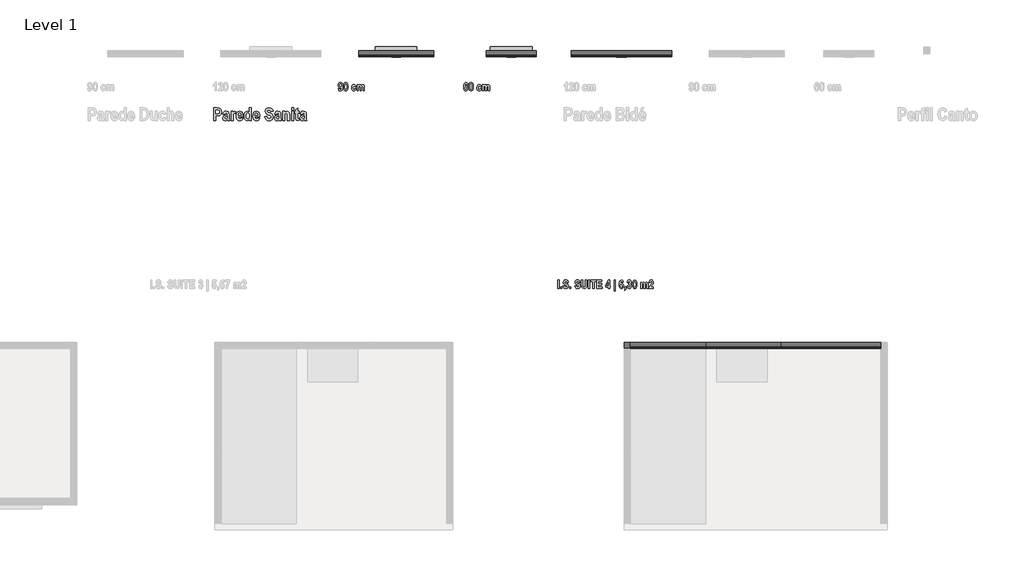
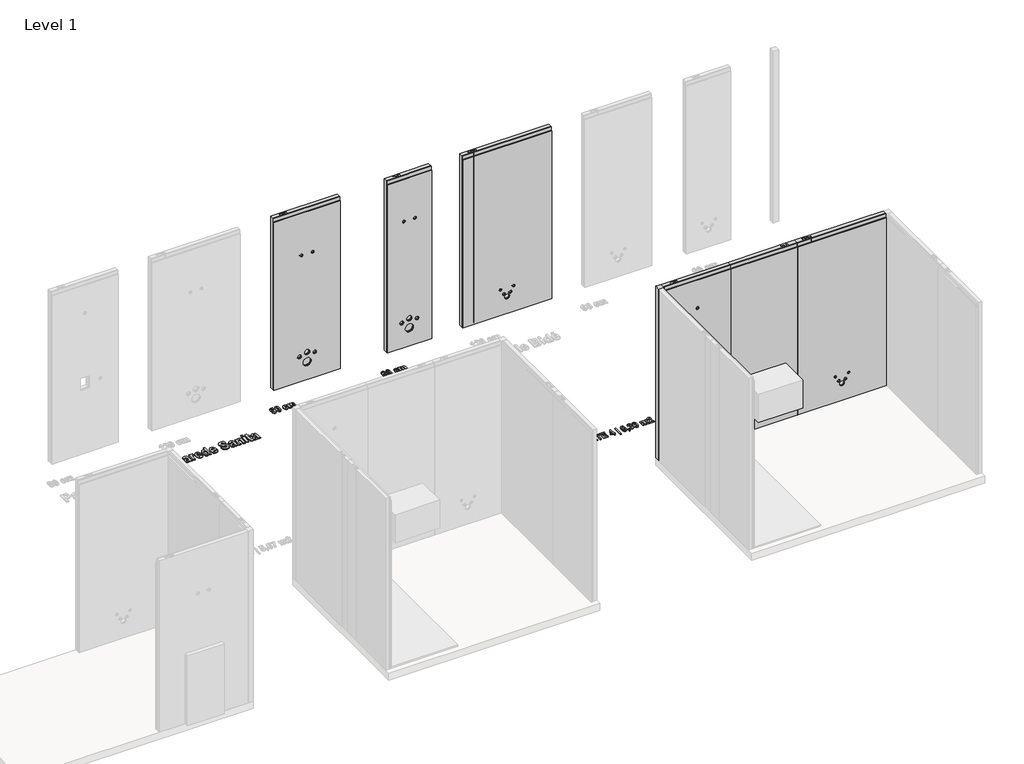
# One storey, part 9 of 10: 11 proxies.
"""IFC4 building model written with IfcOpenShell, lengths in millimetres."""

from ifc_helpers import new_model, si_unit, origin, origin_with_axes, place, context, project, spatial, polyline, outline, extrude, transform, mapped, element, save
from components import generic_models_9f05e25b, generic_models_2c183811, generic_models_8d7f3108, generic_models_38e5dddb, generic_models_87e237a0, generic_models_d659e27f

model = new_model("IFC4")

# Units and contexts
model_context = context("Model", 3, world=origin())
ifc_project = project(units=[si_unit("LENGTHUNIT", "METRE", prefix="MILLI")], contexts=[model_context])

# Site, building, storey
site = spatial("IfcSite", under=ifc_project)
building = spatial("IfcBuilding", under=site)
storey = spatial("IfcBuildingStorey", under=building, Name="Level 1", Elevation=0.0)

# Proxies
placement = place(None, origin())
generic_models_shape = generic_models_9f05e25b(model_context)
element("IfcBuildingElementProxy", 1, Name="ParedeSanita_Blufab : Parede Sanita -Largura 60 cm", ObjectType="ParedeSanita_Blufab : Parede Sanita -Largura 60 cm", at=placement, inside=storey, context=model_context, shape_type="MappedRepresentation", body=[
    mapped(generic_models_shape, transform((4079.1272248, 7918.7563997, 0.0), x_axis=(1.0, 0.0, 0.0), y_axis=(0.0, 1.0, 0.0), z_axis=(0.0, 0.0, 1.0))),
])
generic_models_2_shape = generic_models_2c183811(model_context)
element("IfcBuildingElementProxy", 2, Name="ParedeSanita_Blufab : Parede Sanita - Largura 90 cm", ObjectType="ParedeSanita_Blufab : Parede Sanita - Largura 90 cm", at=placement, inside=storey, context=model_context, shape_type="MappedRepresentation", body=[
    mapped(generic_models_2_shape, transform((2549.1272248, 7918.7563997, 0.0), x_axis=(1.0, 0.0, 0.0), y_axis=(0.0, 1.0, 0.0), z_axis=(0.0, 0.0, 1.0))),
])
generic_models_3_shape = generic_models_8d7f3108(model_context)
element("IfcBuildingElementProxy", 3, Name="ParedeDuche_Blufab : Parede Duche- Largura 90 cm", ObjectType="ParedeDuche_Blufab : Parede Duche- Largura 90 cm", at=placement, inside=storey, context=model_context, shape_type="MappedRepresentation", body=[
    mapped(generic_models_3_shape, transform((5803.6595429, 4427.3727477, 0.0), x_axis=(1.0, 0.0, 0.0), y_axis=(0.0, 1.0, 0.0), z_axis=(0.0, 0.0, 1.0))),
])
generic_models_4_shape = generic_models_38e5dddb(model_context)
element("IfcBuildingElementProxy", 4, Name="ParedeBidé_Blufab : Parede Bidé- Largura 120 cm", ObjectType="ParedeBidé_Blufab : Parede Bidé- Largura 120 cm", at=placement, inside=storey, context=model_context, shape_type="MappedRepresentation", body=[
    mapped(generic_models_4_shape, transform((5099.1272248, 7918.7563997, 0.0), x_axis=(1.0, 0.0, 0.0), y_axis=(0.0, 1.0, 0.0), z_axis=(0.0, 0.0, 1.0))),
])
element("IfcBuildingElementProxy", 5, Name="ParedeBidé_Blufab : Parede Bidé- Largura 120 cm", ObjectType="ParedeBidé_Blufab : Parede Bidé- Largura 120 cm", at=placement, inside=storey, context=model_context, shape_type="MappedRepresentation", body=[
    mapped(generic_models_4_shape, transform((7603.6595429, 4427.3727477, 0.0), x_axis=(1.0, 0.0, 0.0), y_axis=(0.0, 1.0, 0.0), z_axis=(0.0, 0.0, 1.0))),
])
generic_models_5_shape = generic_models_87e237a0(model_context)
element("IfcBuildingElementProxy", 6, Name="PerfilCanto_Blufab : Parede Geral - Largura 60 cm", ObjectType="PerfilCanto_Blufab : Parede Geral - Largura 60 cm", at=placement, inside=storey, context=model_context, shape_type="MappedRepresentation", body=[
    mapped(generic_models_5_shape, transform((5730.6595429, 4427.3727477, 0.0), x_axis=(1.0, 0.0, 0.0), y_axis=(0.0, 1.0, 0.0), z_axis=(0.0, 0.0, 1.0))),
])
generic_models_6_shape = generic_models_d659e27f(model_context)
element("IfcBuildingElementProxy", 7, Name="ParedeLavatório_Blufab : Parede Lavatório - Largura 90 cm", ObjectType="ParedeLavatório_Blufab : Parede Lavatório - Largura 90 cm", at=placement, inside=storey, context=model_context, shape_type="MappedRepresentation", body=[
    mapped(generic_models_6_shape, transform((7603.6595429, 4427.3727477, 0.0), x_axis=(-1.0, 0.0, 0.0), y_axis=(0.0, -1.0, 0.0), z_axis=(0.0, 0.0, 1.0))),
])
element("IfcBuildingElementProxy", 8, Name="24\" Arial", ObjectType="24\" Arial", at=placement, inside=storey, context=model_context, shape_type="SweptSolid", body=[
    extrude(outline(polyline([(2306.7324692, 7537.2422205), (2322.9774053, 7538.8667141), (2325.8139234, 7530.3381226), (2332.0897991, 7527.4952588), (2340.9356745, 7532.9906161), (2345.3649578, 7555.39086), (2338.4481686, 7549.1086386), (2329.9068858, 7546.9891821), (2320.6993068, 7549.2228608), (2312.6212585, 7555.923897), (2306.9862963, 7566.3181178), (2305.1079756, 7579.6313506), (2307.0180247, 7593.7758672), (2312.7481721, 7604.5317917), (2321.2767635, 7611.328013), (2331.5821449, 7613.5934201), (2342.9980199, 7610.6648896), (2352.2182902, 7601.8792982), (2358.3101413, 7586.3101768), (2360.3407583, 7563.0310565), (2358.2276475, 7539.3140844), (2351.888315, 7523.3451853), (2342.1794274, 7514.2740384), (2329.9576513, 7511.2503227), (2321.4322327, 7512.8430879), (2314.5376533, 7517.6213836), (2309.5467775, 7525.7121233), (2306.7324692, 7537.2422205)]), holes=[polyline([(2344.0958222, 7579.2252272), (2340.3899462, 7592.6526822), (2331.9882683, 7597.348484), (2324.3861458, 7593.4776203), (2321.3529117, 7580.5958937), (2324.6653557, 7567.4222658), (2332.8258978, 7563.2341182), (2340.7833782, 7567.2318955), (2344.0958222, 7579.2252272)])]), origin_with_axes(), (0.0, 0.0, 1.0), 10.0),
    extrude(outline(polyline([(2396.8664818, 7613.5934201), (2407.7239371, 7610.7473834), (2416.284257, 7602.2092735), (2421.843071, 7586.564004), (2423.696009, 7562.3964887), (2421.843071, 7538.2670475), (2416.284257, 7522.6344693), (2407.7366285, 7514.0963594), (2396.9172472, 7511.2503227), (2386.0597919, 7514.0709767), (2377.499472, 7522.5329385), (2371.940658, 7538.1908994), (2370.0877199, 7562.5995504), (2371.940658, 7586.6147694), (2377.499472, 7602.2092735), (2386.0471005, 7610.7473834), (2396.8664818, 7613.5934201)]), holes=[polyline([(2396.8918645, 7597.348484), (2389.2009026, 7591.256633), (2386.332656, 7562.3964887), (2389.2009026, 7533.5617271), (2396.8918645, 7527.4952588), (2404.6209005, 7533.5871099), (2407.451073, 7562.3964887), (2404.6209005, 7591.256633), (2396.8918645, 7597.348484)])]), origin_with_axes(), (0.0, 0.0, 1.0), 10.0),
    extrude(outline(polyline([(2521.1656256, 7564.8586118), (2504.9206895, 7561.6096246), (2501.5130603, 7568.9198458), (2494.5899254, 7571.3565863), (2485.5917538, 7566.5719449), (2482.177779, 7550.4158483), (2485.4775316, 7532.6733322), (2494.3107156, 7527.4952588), (2501.1132826, 7530.3635053), (2504.9206895, 7540.4912077), (2521.1656256, 7537.2422205), (2517.7119902, 7525.8707652), (2512.0468861, 7517.7482972), (2504.170313, 7512.8748163), (2494.0822712, 7511.2503227), (2481.6161864, 7514.0360754), (2472.8496321, 7522.3933336), (2467.6620402, 7534.6722208), (2465.9328429, 7549.2228608), (2467.9190401, 7565.7596981), (2473.8776319, 7577.8037953), (2483.0598282, 7585.1520906), (2494.716839, 7587.6015223), (2504.1845908, 7586.2403744), (2511.7232565, 7582.1569305), (2521.1656256, 7564.8586118)])), origin_with_axes(), (0.0, 0.0, 1.0), 10.0),
    extrude(outline(polyline([(2532.5370808, 7585.9770287), (2547.1575233, 7585.9770287), (2547.1575233, 7576.0777708), (2555.7114975, 7584.7459672), (2565.7630517, 7587.6015223), (2575.7003837, 7584.7332758), (2582.5917902, 7576.0523881), (2591.0949989, 7584.7332758), (2600.7658124, 7587.6015223), (2611.2615641, 7584.6825104), (2617.9626002, 7576.3189066), (2620.2597357, 7559.6043903), (2620.2597357, 7512.8748163), (2604.0147996, 7512.8748163), (2604.0147996, 7553.6394528), (2602.1491703, 7567.8283892), (2595.8923316, 7571.3565863), (2587.64295, 7566.4196487), (2584.5208763, 7547.1160957), (2584.5208763, 7512.8748163), (2568.2759402, 7512.8748163), (2568.2759402, 7551.9641938), (2567.0321873, 7566.9146115), (2560.3565339, 7571.3565863), (2554.1377693, 7569.0721421), (2550.0384612, 7562.3964887), (2548.7820169, 7547.5222191), (2548.7820169, 7512.8748163), (2532.5370808, 7512.8748163), (2532.5370808, 7585.9770287)])), origin_with_axes(), (0.0, 0.0, 1.0), 10.0),
])
element("IfcBuildingElementProxy", 9, Name="24\" Arial", ObjectType="24\" Arial", at=placement, inside=storey, context=model_context, shape_type="SweptSolid", body=[
    extrude(outline(polyline([(3858.7162647, 7587.6015223), (3842.4713286, 7585.9770287), (3839.8124894, 7594.5056202), (3833.9173544, 7597.348484), (3825.8075777, 7591.8150526), (3821.7336524, 7569.3767347), (3828.3077749, 7575.7351042), (3836.3033294, 7577.8545607), (3845.3522665, 7575.6145363), (3853.1574506, 7568.8944631), (3858.5449314, 7558.4558226), (3860.3407583, 7545.060096), (3858.4878203, 7530.9504806), (3852.9290062, 7520.2484944), (3844.6352048, 7513.4998656), (3834.577305, 7511.2503227), (3823.5770719, 7514.182026), (3814.6391842, 7522.977136), (3808.7091479, 7538.5557759), (3806.7324692, 7561.838069), (3808.7821232, 7585.5360041), (3814.9310854, 7601.4985575), (3824.2973063, 7610.5697044), (3835.9987369, 7613.5934201), (3844.1656247, 7611.9816178), (3850.9491546, 7607.1462111), (3855.9368577, 7599.0364344), (3858.7162647, 7587.6015223)]), holes=[polyline([(3822.9774053, 7545.6692811), (3826.3913801, 7532.1656779), (3834.1965643, 7527.4952588), (3841.2783411, 7531.3661225), (3844.0958222, 7544.0701702), (3841.0372053, 7557.421477), (3833.4604656, 7561.6096246), (3826.0360222, 7557.6118474), (3822.9774053, 7545.6692811)])]), origin_with_axes(), (0.0, 0.0, 1.0), 10.0),
    extrude(outline(polyline([(3896.8664818, 7613.5934201), (3907.7239371, 7610.7473834), (3916.284257, 7602.2092735), (3921.843071, 7586.564004), (3923.696009, 7562.3964887), (3921.843071, 7538.2670475), (3916.284257, 7522.6344693), (3907.7366285, 7514.0963594), (3896.9172472, 7511.2503227), (3886.0597919, 7514.0709767), (3877.499472, 7522.5329385), (3871.940658, 7538.1908994), (3870.0877199, 7562.5995504), (3871.940658, 7586.6147694), (3877.499472, 7602.2092735), (3886.0471005, 7610.7473834), (3896.8664818, 7613.5934201)]), holes=[polyline([(3896.8918645, 7597.348484), (3889.2009026, 7591.256633), (3886.332656, 7562.3964887), (3889.2009026, 7533.5617271), (3896.8918645, 7527.4952588), (3904.6209005, 7533.5871099), (3907.451073, 7562.3964887), (3904.6209005, 7591.256633), (3896.8918645, 7597.348484)])]), origin_with_axes(), (0.0, 0.0, 1.0), 10.0),
    extrude(outline(polyline([(4021.1656256, 7564.8586118), (4004.9206895, 7561.6096246), (4001.5130603, 7568.9198458), (3994.5899254, 7571.3565863), (3985.5917538, 7566.5719449), (3982.177779, 7550.4158483), (3985.4775316, 7532.6733322), (3994.3107156, 7527.4952588), (4001.1132826, 7530.3635053), (4004.9206895, 7540.4912077), (4021.1656256, 7537.2422205), (4017.7119902, 7525.8707652), (4012.0468861, 7517.7482972), (4004.170313, 7512.8748163), (3994.0822712, 7511.2503227), (3981.6161864, 7514.0360754), (3972.8496321, 7522.3933336), (3967.6620402, 7534.6722208), (3965.9328429, 7549.2228608), (3967.9190401, 7565.7596981), (3973.8776319, 7577.8037953), (3983.0598282, 7585.1520906), (3994.716839, 7587.6015223), (4004.1845908, 7586.2403744), (4011.7232565, 7582.1569305), (4021.1656256, 7564.8586118)])), origin_with_axes(), (0.0, 0.0, 1.0), 10.0),
    extrude(outline(polyline([(4032.5370808, 7585.9770287), (4047.1575233, 7585.9770287), (4047.1575233, 7576.0777708), (4055.7114975, 7584.7459672), (4065.7630517, 7587.6015223), (4075.7003837, 7584.7332758), (4082.5917902, 7576.0523881), (4091.0949989, 7584.7332758), (4100.7658124, 7587.6015223), (4111.2615641, 7584.6825104), (4117.9626002, 7576.3189066), (4120.2597357, 7559.6043903), (4120.2597357, 7512.8748163), (4104.0147996, 7512.8748163), (4104.0147996, 7553.6394528), (4102.1491703, 7567.8283892), (4095.8923316, 7571.3565863), (4087.64295, 7566.4196487), (4084.5208763, 7547.1160957), (4084.5208763, 7512.8748163), (4068.2759402, 7512.8748163), (4068.2759402, 7551.9641938), (4067.0321873, 7566.9146115), (4060.3565339, 7571.3565863), (4054.1377693, 7569.0721421), (4050.0384612, 7562.3964887), (4048.7820169, 7547.5222191), (4048.7820169, 7512.8748163), (4032.5370808, 7512.8748163), (4032.5370808, 7585.9770287)])), origin_with_axes(), (0.0, 0.0, 1.0), 10.0),
])
element("IfcBuildingElementProxy", 10, Name="24\" Arial", ObjectType="24\" Arial", at=placement, inside=storey, context=model_context, shape_type="SweptSolid", body=[
    extrude(outline(polyline([(4934.9814564, 5144.3634386), (4934.9814564, 5245.0820423), (4951.2263925, 5245.0820423), (4951.2263925, 5144.3634386), (4934.9814564, 5144.3634386)])), origin_with_axes(), (0.0, 0.0, 1.0), 10.0),
    extrude(outline(polyline([(4967.4713286, 5144.3634386), (4967.4713286, 5163.8573619), (4983.7162647, 5163.8573619), (4983.7162647, 5144.3634386), (4967.4713286, 5144.3634386)])), origin_with_axes(), (0.0, 0.0, 1.0), 10.0),
    extrude(outline(polyline([(4996.7122136, 5176.8533108), (5012.9571496, 5178.4778044), (5018.8142106, 5165.0757321), (5030.9027275, 5160.6083747), (5042.7564543, 5164.3650161), (5047.0715154, 5173.655089), (5045.5485527, 5179.1885203), (5040.9035163, 5182.9451618), (5026.0292467, 5188.1486179), (5010.6346314, 5195.2557774), (5002.85483, 5205.2058008), (4999.9612008, 5218.4809595), (5003.7051509, 5233.3425377), (5014.0359149, 5243.3306352), (5030.3189251, 5246.7065359), (5043.2704542, 5244.812351), (5053.0364529, 5239.1297962), (5059.2869459, 5229.92539), (5061.6919579, 5217.465651), (5045.4470218, 5215.8411574), (5040.7004546, 5225.9561684), (5030.2681597, 5228.8371062), (5019.8612475, 5226.0957733), (5016.2061369, 5219.2932063), (5019.0743834, 5212.5667874), (5033.6440604, 5206.1449611), (5051.6657864, 5198.2509375), (5060.3212914, 5188.1105438), (5063.3164515, 5173.0205211), (5061.3143901, 5161.2239054), (5055.3082057, 5151.4705981), (5045.0377256, 5144.9218583), (5030.242777, 5142.738945), (5016.8486368, 5144.8710928), (5006.7954962, 5151.2675364), (5000.0833551, 5161.9282757), (4996.7122136, 5176.8533108)])), origin_with_axes(), (0.0, 0.0, 1.0), 10.0),
    extrude(outline(polyline([(5076.3124004, 5144.3634386), (5076.3124004, 5163.8573619), (5092.5573365, 5163.8573619), (5092.5573365, 5144.3634386), (5076.3124004, 5144.3634386)])), origin_with_axes(), (0.0, 0.0, 1.0), 10.0),
    extrude(outline(polyline([(5138.0431575, 5176.8533108), (5154.2880936, 5178.4778044), (5160.1451546, 5165.0757321), (5172.2336715, 5160.6083747), (5184.0873983, 5164.3650161), (5188.4024594, 5173.655089), (5186.8794967, 5179.1885203), (5182.2344602, 5182.9451618), (5167.3601906, 5188.1486179), (5151.9655754, 5195.2557774), (5144.185774, 5205.2058008), (5141.2921448, 5218.4809595), (5145.0360949, 5233.3425377), (5155.3668589, 5243.3306352), (5171.6498691, 5246.7065359), (5184.6013982, 5244.812351), (5194.3673969, 5239.1297962), (5200.6178899, 5229.92539), (5203.0229019, 5217.465651), (5186.7779658, 5215.8411574), (5182.0313985, 5225.9561684), (5171.5991036, 5228.8371062), (5161.1921915, 5226.0957733), (5157.5370808, 5219.2932063), (5160.4053274, 5212.5667874), (5174.9750044, 5206.1449611), (5192.9967304, 5198.2509375), (5201.6522354, 5188.1105438), (5204.6473955, 5173.0205211), (5202.645334, 5161.2239054), (5196.6391497, 5151.4705981), (5186.3686696, 5144.9218583), (5171.5737209, 5142.738945), (5158.1795808, 5144.8710928), (5148.1264401, 5151.2675364), (5141.4142991, 5161.9282757), (5138.0431575, 5176.8533108)])), origin_with_axes(), (0.0, 0.0, 1.0), 10.0),
    extrude(outline(polyline([(5217.6433444, 5245.0820423), (5233.8882805, 5245.0820423), (5233.8882805, 5190.9153336), (5234.4974656, 5174.4673358), (5239.7516871, 5164.2254112), (5250.6916362, 5160.6083747), (5260.0705485, 5163.1720286), (5265.0455602, 5170.2664968), (5266.3781526, 5189.7477288), (5266.3781526, 5245.0820423), (5282.6230887, 5245.0820423), (5282.6230887, 5192.2352346), (5280.4909409, 5162.9562756), (5277.0198549, 5154.7893878), (5270.8708928, 5148.3358331), (5262.1900051, 5144.138167), (5251.1231423, 5142.738945), (5231.235787, 5147.37129), (5220.8669489, 5160.4180043), (5217.6433444, 5191.3976051), (5217.6433444, 5245.0820423)])), origin_with_axes(), (0.0, 0.0, 1.0), 10.0),
    extrude(outline(polyline([(5300.4925184, 5144.3634386), (5300.4925184, 5245.0820423), (5316.7374545, 5245.0820423), (5316.7374545, 5144.3634386), (5300.4925184, 5144.3634386)])), origin_with_axes(), (0.0, 0.0, 1.0), 10.0),
    extrude(outline(polyline([(5352.4763139, 5144.3634386), (5352.4763139, 5228.8371062), (5328.1089098, 5228.8371062), (5328.1089098, 5245.0820423), (5393.0886541, 5245.0820423), (5393.0886541, 5228.8371062), (5368.72125, 5228.8371062), (5368.72125, 5144.3634386), (5352.4763139, 5144.3634386)])), origin_with_axes(), (0.0, 0.0, 1.0), 10.0),
    extrude(outline(polyline([(5402.8356158, 5144.3634386), (5402.8356158, 5245.0820423), (5462.9418793, 5245.0820423), (5462.9418793, 5228.8371062), (5419.0805519, 5228.8371062), (5419.0805519, 5204.4697021), (5459.6928921, 5204.4697021), (5459.6928921, 5188.224766), (5419.0805519, 5188.224766), (5419.0805519, 5160.6083747), (5464.5663729, 5160.6083747), (5464.5663729, 5144.3634386), (5402.8356158, 5144.3634386)])), origin_with_axes(), (0.0, 0.0, 1.0), 10.0),
    extrude(outline(polyline([(5539.2930789, 5144.3634386), (5539.2930789, 5163.8573619), (5506.8032068, 5163.8573619), (5506.8032068, 5180.0261498), (5541.3998441, 5245.0820423), (5555.538015, 5245.0820423), (5555.538015, 5180.102298), (5565.2849767, 5180.102298), (5565.2849767, 5163.8573619), (5555.538015, 5163.8573619), (5555.538015, 5144.3634386), (5539.2930789, 5144.3634386)]), holes=[polyline([(5539.2930789, 5180.102298), (5539.2930789, 5215.1050587), (5521.0682913, 5180.102298), (5539.2930789, 5180.102298)])]), origin_with_axes(), (0.0, 0.0, 1.0), 10.0),
    extrude(outline(polyline([(5609.1463041, 5115.1225536), (5609.1463041, 5246.7065359), (5622.142253, 5246.7065359), (5622.142253, 5115.1225536), (5609.1463041, 5115.1225536)])), origin_with_axes(), (0.0, 0.0, 1.0), 10.0),
    extrude(outline(polyline([(5721.2363631, 5219.0901446), (5704.991427, 5217.465651), (5702.3325879, 5225.9942424), (5696.4374529, 5228.8371062), (5688.3276762, 5223.3036749), (5684.2537508, 5200.8653569), (5690.8278734, 5207.2237264), (5698.8234279, 5209.3431829), (5707.8723649, 5207.1031585), (5715.6775491, 5200.3830854), (5721.0650298, 5189.9444448), (5722.8608567, 5176.5487182), (5721.0079187, 5162.4391028), (5715.4491047, 5151.7371166), (5707.1553033, 5144.9884879), (5697.0974034, 5142.738945), (5686.0971703, 5145.6706483), (5677.1592826, 5154.4657582), (5671.2292464, 5170.0443981), (5669.2525676, 5193.3266913), (5671.3022217, 5217.0246263), (5677.4511838, 5232.9871798), (5686.8174048, 5242.0583267), (5698.5188353, 5245.0820423), (5706.6857231, 5243.4702401), (5713.4692531, 5238.6348333), (5718.4569561, 5230.5250566), (5721.2363631, 5219.0901446)]), holes=[polyline([(5685.4975037, 5177.1579033), (5688.9114786, 5163.6543002), (5696.7166627, 5158.9838811), (5703.7984396, 5162.8547447), (5706.6159207, 5175.5587924), (5703.5573038, 5188.9100993), (5695.9805641, 5193.0982468), (5688.5561206, 5189.1004696), (5685.4975037, 5177.1579033)])]), origin_with_axes(), (0.0, 0.0, 1.0), 10.0),
    extrude(outline(polyline([(5735.8568056, 5163.8573619), (5752.1017417, 5163.8573619), (5752.1017417, 5149.8968699), (5749.2081125, 5132.2558846), (5737.3036202, 5121.6205281), (5734.232312, 5129.5399344), (5741.5806073, 5134.83223), (5743.9792737, 5144.3634386), (5735.8568056, 5144.3634386), (5735.8568056, 5163.8573619)])), origin_with_axes(), (0.0, 0.0, 1.0), 10.0),
    extrude(outline(polyline([(5765.0976906, 5171.9798299), (5781.3426267, 5173.6043235), (5784.8962064, 5162.7405225), (5791.9272178, 5158.9838811), (5799.4024267, 5163.4385471), (5802.4610436, 5175.7872368), (5799.3008959, 5187.298297), (5791.648008, 5191.4737532), (5784.5916139, 5190.0269386), (5786.2922556, 5207.7186893), (5795.7853902, 5210.6123186), (5799.2120564, 5219.0901446), (5796.6610937, 5226.2480696), (5790.1250452, 5228.8371062), (5783.1955647, 5225.550045), (5779.7181331, 5215.8411574), (5765.0976906, 5217.465651), (5768.4704185, 5229.9761555), (5774.0197141, 5238.5206111), (5781.5234785, 5243.4416845), (5790.7596131, 5245.0820423), (5800.9380808, 5243.1434377), (5808.781339, 5237.3276236), (5813.7880791, 5229.157563), (5815.4569925, 5220.1562185), (5812.4110669, 5208.6959238), (5803.2732904, 5199.7485176), (5814.4036099, 5191.3976051), (5818.7059797, 5175.2795826), (5816.7007454, 5162.4073744), (5810.6850425, 5151.965561), (5801.9026239, 5145.045599), (5791.5972426, 5142.738945), (5781.8058612, 5144.6997595), (5773.6516647, 5150.5822032), (5767.8453692, 5159.853239), (5765.0976906, 5171.9798299)])), origin_with_axes(), (0.0, 0.0, 1.0), 10.0),
    extrude(outline(polyline([(5855.2317032, 5245.0820423), (5866.0891585, 5242.2360057), (5874.6494783, 5233.6978957), (5880.2082924, 5218.0526262), (5882.0612304, 5193.8851109), (5880.2082924, 5169.7556697), (5874.6494783, 5154.1230916), (5866.1018498, 5145.5849816), (5855.2824686, 5142.738945), (5844.4250133, 5145.5595989), (5835.8646934, 5154.0215607), (5830.3058793, 5169.6795216), (5828.4529413, 5194.0881726), (5830.3058793, 5218.1033916), (5835.8646934, 5233.6978957), (5844.4123219, 5242.2360057), (5855.2317032, 5245.0820423)]), holes=[polyline([(5855.2570859, 5228.8371062), (5847.5661239, 5222.7452552), (5844.6978774, 5193.8851109), (5847.5661239, 5165.0503494), (5855.2570859, 5158.9838811), (5862.9861219, 5165.0757321), (5865.8162943, 5193.8851109), (5862.9861219, 5222.7452552), (5855.2570859, 5228.8371062)])]), origin_with_axes(), (0.0, 0.0, 1.0), 10.0),
    extrude(outline(polyline([(5927.5470515, 5217.465651), (5942.1674939, 5217.465651), (5942.1674939, 5207.566393), (5950.7214681, 5216.2345894), (5960.7730223, 5219.0901446), (5970.7103543, 5216.2218981), (5977.6017608, 5207.5410103), (5986.1049695, 5216.2218981), (5995.775783, 5219.0901446), (6006.2715347, 5216.1711326), (6012.9725709, 5207.8075288), (6015.2697063, 5191.0930125), (6015.2697063, 5144.3634386), (5999.0247703, 5144.3634386), (5999.0247703, 5185.1280751), (5997.1591409, 5199.3170114), (5990.9023022, 5202.8452085), (5982.6529206, 5197.9082709), (5979.530847, 5178.6047179), (5979.530847, 5144.3634386), (5963.2859109, 5144.3634386), (5963.2859109, 5183.452816), (5962.0421579, 5198.4032338), (5955.3665045, 5202.8452085), (5949.1477399, 5200.5607644), (5945.0484318, 5193.8851109), (5943.7919876, 5179.0108413), (5943.7919876, 5144.3634386), (5927.5470515, 5144.3634386), (5927.5470515, 5217.465651)])), origin_with_axes(), (0.0, 0.0, 1.0), 10.0),
    extrude(outline(polyline([(6080.2494507, 5160.6083747), (6080.2494507, 5144.3634386), (6025.016668, 5144.3634386), (6030.3978031, 5163.5654607), (6047.8611094, 5187.4632846), (6060.5017003, 5203.4036282), (6064.0045146, 5215.612713), (6061.1743422, 5225.4992795), (6053.7498987, 5228.8371062), (6045.99548, 5225.1819956), (6042.8860977, 5214.2166638), (6026.6411616, 5215.8411574), (6029.5030625, 5228.9354643), (6035.1951358, 5238.0129569), (6043.4762458, 5243.314771), (6054.1052567, 5245.0820423), (6065.4798848, 5242.9372031), (6073.6626368, 5236.5026855), (6078.6027472, 5227.2951064), (6080.2494507, 5216.8310832), (6078.5741917, 5204.6600725), (6073.4088096, 5192.7936543), (6061.7708359, 5177.5640267), (6052.1634792, 5166.0402752), (6048.9018006, 5160.6083747), (6080.2494507, 5160.6083747)])), origin_with_axes(), (0.0, 0.0, 1.0), 10.0),
])
element("IfcBuildingElementProxy", 11, Name="24\" Arial 2", ObjectType="24\" Arial 2", at=placement, inside=storey, context=model_context, shape_type="SweptSolid", body=[
    extrude(outline(polyline([(814.0426904, 7157.133031), (814.0426904, 7308.2109366), (854.2869813, 7308.2109366), (883.6801626, 7306.0407147), (893.7555131, 7300.4961784), (901.8986046, 7290.9443464), (907.2813261, 7277.7183667), (909.0755666, 7261.1513874), (907.5145297, 7245.9598339), (902.8314193, 7233.4334652), (895.8067535, 7223.9054294), (887.221051, 7217.7088747), (874.4757564, 7214.3107641), (854.9723146, 7213.1780605), (838.4100946, 7213.1780605), (838.4100946, 7157.133031), (814.0426904, 7157.133031)]), holes=[polyline([(838.4100946, 7283.8435325), (838.4100946, 7237.5454646), (852.9163148, 7237.5454646), (872.7529048, 7239.6585755), (881.3576444, 7247.2733893), (884.7081624, 7260.8087208), (881.2434222, 7274.4963486), (872.6957937, 7281.9588661), (851.1649077, 7283.8435325), (838.4100946, 7283.8435325)])]), origin_with_axes(), (0.0, 0.0, 1.0), 10.0),
    extrude(outline(polyline([(950.5001536, 7230.2352434), (926.1327495, 7235.1087242), (931.2441932, 7250.7476481), (938.8875626, 7261.2656096), (949.7386722, 7267.2337199), (964.4733369, 7269.22309), (987.146445, 7264.9968684), (998.3211842, 7253.4794625), (1001.6717023, 7226.9989475), (1001.4432579, 7193.1511002), (1002.5283688, 7171.9438438), (1006.5451831, 7157.133031), (982.177779, 7157.133031), (979.2080016, 7169.0121405), (966.6435588, 7158.2752531), (952.403857, 7154.6962906), (940.9150067, 7156.876031), (931.7296376, 7163.4152524), (925.7044162, 7173.5715103), (923.696009, 7186.6023604), (926.970379, 7202.6125064), (936.1843037, 7213.5207271), (955.2213381, 7220.7548002), (977.3042981, 7227.798503), (976.2191872, 7238.85902), (972.2214099, 7243.1804268), (963.978374, 7244.8556859), (955.5068937, 7241.7716863), (950.5001536, 7230.2352434)]), holes=[polyline([(977.3042981, 7208.3045797), (964.3971888, 7204.6494691), (951.1854868, 7199.2429513), (948.0634132, 7191.5900634), (951.5091164, 7182.6807313), (960.132893, 7179.0636947), (969.2897066, 7181.976361), (975.552891, 7188.8868045), (977.3042981, 7203.4310989), (977.3042981, 7208.3045797)])]), origin_with_axes(), (0.0, 0.0, 1.0), 10.0),
    extrude(outline(polyline([(1047.9697701, 7157.133031), (1023.602366, 7157.133031), (1023.602366, 7266.7863496), (1045.5330297, 7266.7863496), (1045.5330297, 7251.3282776), (1055.1467321, 7265.7012386), (1064.9127308, 7269.22309), (1079.6473955, 7263.7784982), (1072.2991002, 7237.735835), (1062.247546, 7242.4189455), (1054.3471767, 7238.7828719), (1049.4546588, 7225.6473181), (1047.9697701, 7190.6762858), (1047.9697701, 7157.133031)])), origin_with_axes(), (0.0, 0.0, 1.0), 10.0),
    extrude(outline(polyline([(1143.0026462, 7191.2473968), (1167.3700504, 7186.373916), (1161.2924771, 7172.3483808), (1152.5782746, 7162.4824377), (1141.4558872, 7156.6428274), (1128.1537594, 7154.6962906), (1110.4778728, 7158.0277716), (1097.3518376, 7168.0222147), (1087.7286166, 7186.5833233), (1084.5208763, 7211.3505052), (1087.7095796, 7236.060576), (1097.2756894, 7255.2879808), (1109.6402433, 7265.7393127), (1125.183982, 7269.22309), (1142.1650167, 7265.6536461), (1155.034052, 7254.9453142), (1164.3717174, 7234.7279835), (1167.4842726, 7206.7435429), (1167.3700504, 7203.4310989), (1108.8882805, 7203.4310989), (1110.4160025, 7193.1273039), (1114.6184278, 7185.4411013), (1120.7245566, 7180.6580464), (1127.963389, 7179.0636947), (1137.3581655, 7182.1096202), (1143.0026462, 7191.2473968)]), holes=[polyline([(1143.0026462, 7220.4882817), (1137.8245729, 7238.7447978), (1126.2119818, 7244.8556859), (1119.6442049, 7243.2660935), (1114.180576, 7238.4973164), (1109.3070952, 7220.4882817), (1143.0026462, 7220.4882817)])]), origin_with_axes(), (0.0, 0.0, 1.0), 10.0),
    extrude(outline(polyline([(1267.2764073, 7157.133031), (1245.3457436, 7157.133031), (1245.3457436, 7173.0860659), (1232.4195972, 7159.2842159), (1217.0947844, 7154.6962906), (1202.9788234, 7158.4513456), (1190.7856028, 7169.7165108), (1182.361715, 7187.939712), (1179.5537524, 7212.5688754), (1182.2617706, 7237.1885202), (1190.3858251, 7254.9262771), (1202.4695827, 7265.6488868), (1217.0567104, 7269.22309), (1231.0108566, 7265.4347202), (1242.9090032, 7254.0696106), (1242.9090032, 7308.2109366), (1267.2764073, 7308.2109366), (1267.2764073, 7157.133031)]), holes=[polyline([(1203.9211566, 7213.8633938), (1206.4150081, 7192.8845818), (1213.534859, 7182.528435), (1223.9481169, 7179.0636947), (1231.1679122, 7181.0673426), (1237.3692262, 7187.0782862), (1241.6382811, 7197.1250812), (1243.0612995, 7211.236283), (1241.6763552, 7226.6229661), (1237.5215224, 7236.9933906), (1231.2345418, 7242.8901121), (1223.453154, 7244.8556859), (1215.9192476, 7242.9234269), (1209.6132299, 7237.1266499), (1205.3441749, 7227.4463179), (1203.9211566, 7213.8633938)])]), origin_with_axes(), (0.0, 0.0, 1.0), 10.0),
    extrude(outline(polyline([(1342.8153601, 7191.2473968), (1367.1827643, 7186.373916), (1361.105191, 7172.3483808), (1352.3909885, 7162.4824377), (1341.2686011, 7156.6428274), (1327.9664732, 7154.6962906), (1310.2905867, 7158.0277716), (1297.1645515, 7168.0222147), (1287.5413305, 7186.5833233), (1284.3335902, 7211.3505052), (1287.5222935, 7236.060576), (1297.0884033, 7255.2879808), (1309.4529572, 7265.7393127), (1324.9966959, 7269.22309), (1341.9777306, 7265.6536461), (1354.8467659, 7254.9453142), (1364.1844313, 7234.7279835), (1367.2969865, 7206.7435429), (1367.1827643, 7203.4310989), (1308.7009944, 7203.4310989), (1310.2287164, 7193.1273039), (1314.4311417, 7185.4411013), (1320.5372705, 7180.6580464), (1327.7761029, 7179.0636947), (1337.1708794, 7182.1096202), (1342.8153601, 7191.2473968)]), holes=[polyline([(1342.8153601, 7220.4882817), (1337.6372868, 7238.7447978), (1326.0246957, 7244.8556859), (1319.4569188, 7243.2660935), (1313.9932899, 7238.4973164), (1309.1198091, 7220.4882817), (1342.8153601, 7220.4882817)])]), origin_with_axes(), (0.0, 0.0, 1.0), 10.0),
    extrude(outline(polyline([(1428.1012746, 7205.8678393), (1452.4686787, 7208.3045797), (1455.6930765, 7196.5777664), (1461.2542702, 7188.2014713), (1469.1522598, 7183.1756942), (1479.3870455, 7181.5004351), (1489.4861923, 7182.9091757), (1497.1676357, 7187.1353973), (1502.0220795, 7193.4366558), (1503.6402274, 7201.0705066), (1501.3557833, 7209.3706536), (1494.3882287, 7215.0056158), (1472.0768243, 7222.8108), (1448.9849014, 7233.4715393), (1437.3151993, 7248.3965743), (1432.9747554, 7268.3093124), (1438.5906806, 7290.6016797), (1445.2726797, 7299.3063638), (1454.0868267, 7305.5838259), (1478.5113419, 7310.647677), (1497.9386356, 7307.8063996), (1512.5876336, 7299.2825675), (1521.9633731, 7285.4759582), (1525.5708911, 7266.7863496), (1501.203487, 7264.3496092), (1494.0836361, 7279.5221257), (1478.4351938, 7283.8435325), (1462.8248255, 7279.731533), (1457.3421596, 7269.5276826), (1461.6445294, 7259.4380543), (1483.4990449, 7249.8053148), (1510.5316339, 7237.9642794), (1523.5148914, 7222.7536889), (1528.0076316, 7200.1186549), (1525.0045394, 7182.4237313), (1515.9952628, 7167.7937703), (1500.5895427, 7157.9706605), (1478.3971197, 7154.6962906), (1458.3059094, 7157.8945124), (1443.2261985, 7167.4891778), (1433.1579869, 7183.4802867), (1428.1012746, 7205.8678393)])), origin_with_axes(), (0.0, 0.0, 1.0), 10.0),
    extrude(outline(polyline([(1569.4322186, 7230.2352434), (1545.0648145, 7235.1087242), (1550.1762582, 7250.7476481), (1557.8196276, 7261.2656096), (1568.6707372, 7267.2337199), (1583.4054019, 7269.22309), (1606.07851, 7264.9968684), (1617.2532492, 7253.4794625), (1620.6037673, 7226.9989475), (1620.3753229, 7193.1511002), (1621.4604338, 7171.9438438), (1625.4772481, 7157.133031), (1601.109844, 7157.133031), (1598.1400666, 7169.0121405), (1585.5756238, 7158.2752531), (1571.335922, 7154.6962906), (1559.8470717, 7156.876031), (1550.6617026, 7163.4152524), (1544.6364812, 7173.5715103), (1542.628074, 7186.6023604), (1545.902444, 7202.6125064), (1555.1163687, 7213.5207271), (1574.1534031, 7220.7548002), (1596.2363631, 7227.798503), (1595.1512522, 7238.85902), (1591.1534749, 7243.1804268), (1582.910439, 7244.8556859), (1574.4389587, 7241.7716863), (1569.4322186, 7230.2352434)]), holes=[polyline([(1596.2363631, 7208.3045797), (1583.3292538, 7204.6494691), (1570.1175518, 7199.2429513), (1566.9954782, 7191.5900634), (1570.4411814, 7182.6807313), (1579.064958, 7179.0636947), (1588.2217716, 7181.976361), (1594.484956, 7188.8868045), (1596.2363631, 7203.4310989), (1596.2363631, 7208.3045797)])]), origin_with_axes(), (0.0, 0.0, 1.0), 10.0),
    extrude(outline(polyline([(1722.9468646, 7157.133031), (1698.5794605, 7157.133031), (1698.5794605, 7211.7312459), (1697.3420533, 7233.5857615), (1692.7160539, 7241.9430196), (1685.0250919, 7244.8556859), (1675.0116118, 7241.0863531), (1668.7103534, 7230.6540582), (1666.9018351, 7205.5632467), (1666.9018351, 7157.133031), (1642.534431, 7157.133031), (1642.534431, 7266.7863496), (1664.4650947, 7266.7863496), (1664.4650947, 7248.8153891), (1677.4293152, 7264.1211648), (1693.4013871, 7269.22309), (1710.6108663, 7263.7975352), (1720.2816798, 7249.862426), (1722.9468646, 7225.2475404), (1722.9468646, 7157.133031)])), origin_with_axes(), (0.0, 0.0, 1.0), 10.0),
    extrude(outline(polyline([(1747.3142688, 7281.4067921), (1747.3142688, 7308.2109366), (1771.6816729, 7308.2109366), (1771.6816729, 7281.4067921), (1747.3142688, 7281.4067921)])), origin_with_axes(), (0.0, 0.0, 1.0), 10.0),
    extrude(outline(polyline([(1747.3142688, 7157.133031), (1747.3142688, 7266.7863496), (1771.6816729, 7266.7863496), (1771.6816729, 7157.133031), (1747.3142688, 7157.133031)])), origin_with_axes(), (0.0, 0.0, 1.0), 10.0),
    extrude(outline(polyline([(1837.4736641, 7266.7863496), (1837.4736641, 7242.4189455), (1820.4164812, 7242.4189455), (1820.4164812, 7199.3190994), (1821.2160366, 7183.099546), (1827.5744061, 7179.0636947), (1837.8544047, 7181.8050277), (1839.9104045, 7158.9605863), (1820.4164812, 7154.6962906), (1805.2249276, 7158.9796233), (1797.5720398, 7171.2965847), (1796.049077, 7195.2832481), (1796.049077, 7242.4189455), (1783.865375, 7242.4189455), (1783.865375, 7266.7863496), (1796.049077, 7266.7863496), (1796.049077, 7288.7170133), (1820.4164812, 7305.7741962), (1820.4164812, 7266.7863496), (1837.4736641, 7266.7863496)])), origin_with_axes(), (0.0, 0.0, 1.0), 10.0),
    extrude(outline(polyline([(1874.0247703, 7230.2352434), (1849.6573661, 7235.1087242), (1854.7688099, 7250.7476481), (1862.4121792, 7261.2656096), (1873.2632889, 7267.2337199), (1887.9979536, 7269.22309), (1910.6710616, 7264.9968684), (1921.8458009, 7253.4794625), (1925.1963189, 7226.9989475), (1924.9678745, 7193.1511002), (1926.0529855, 7171.9438438), (1930.0697998, 7157.133031), (1905.7023956, 7157.133031), (1902.7326183, 7169.0121405), (1890.1681755, 7158.2752531), (1875.9284737, 7154.6962906), (1864.4396234, 7156.876031), (1855.2542543, 7163.4152524), (1849.2290328, 7173.5715103), (1847.2206257, 7186.6023604), (1850.4949956, 7202.6125064), (1859.7089203, 7213.5207271), (1878.7459548, 7220.7548002), (1900.8289148, 7227.798503), (1899.7438038, 7238.85902), (1895.7460266, 7243.1804268), (1887.5029907, 7244.8556859), (1879.0315103, 7241.7716863), (1874.0247703, 7230.2352434)]), holes=[polyline([(1900.8289148, 7208.3045797), (1887.9218054, 7204.6494691), (1874.7101035, 7199.2429513), (1871.5880298, 7191.5900634), (1875.0337331, 7182.6807313), (1883.6575097, 7179.0636947), (1892.8143233, 7181.976361), (1899.0775076, 7188.8868045), (1900.8289148, 7203.4310989), (1900.8289148, 7208.3045797)])]), origin_with_axes(), (0.0, 0.0, 1.0), 10.0),
])

save(model, "model.ifc")
